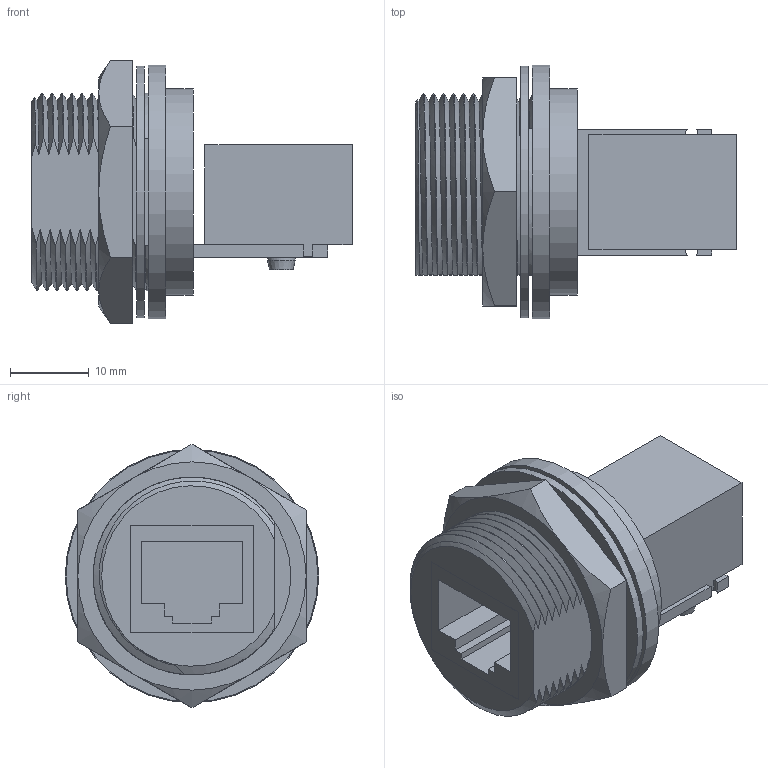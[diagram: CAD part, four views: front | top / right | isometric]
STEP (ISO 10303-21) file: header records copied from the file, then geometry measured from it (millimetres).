
FILE_DESCRIPTION(/* description */ (''),/* implementation_level */ '2;1');
FILE_NAME(/* name */ 'RJ45D-P3CSJ.stp',/* time_stamp */ '2026-04-08T16:55:08+09:00',/* author */ ('CS-05'),/* organization */ (''),/* preprocessor_version */ 'ST-DEVELOPER v19.2',/* originating_system */ 'Autodesk Inventor 2023',/* authorisation */ '');
FILE_SCHEMA (('AUTOMOTIVE_DESIGN { 1 0 10303 214 3 1 1 }'));
Length unit declared in the file: millimetre
Products named in the file (4): TB-010_RJ45D-P3CSJ_SD; TB-010_RJ45D-P3CSJ_SD1; TB-010_RJ45D-P3CSJ_SD2; TB-010_RJ45D-P3CSJ_SD3
Assembly tree (3 placements, depth 2):
  TB-010_RJ45D-P3CSJ_SD
    TB-010_RJ45D-P3CSJ_SD1
    TB-010_RJ45D-P3CSJ_SD2
    TB-010_RJ45D-P3CSJ_SD3
Bounding box: 40.7 x 32.2 x 33.49 mm (x, y, z)
Volume: 13173.6 mm3; surface area: 8525.1 mm2
Topology: 3 solids, 3 shells, 129 faces, 327 edges, 212 vertices
Faces by surface type: plane 74, bspline 24, cylinder 22, cone 9
Full cylindrical faces by diameter (mm): 3.5 x2, 25.12 x2, 26.2 x1, 32 x1, 32.2 x1
Entity records: 6670 total; most frequent: CARTESIAN_POINT 3626, ORIENTED_EDGE 658, DIRECTION 495, EDGE_CURVE 329, VERTEX_POINT 212, LINE 193, VECTOR 193, AXIS2_PLACEMENT_3D 151
